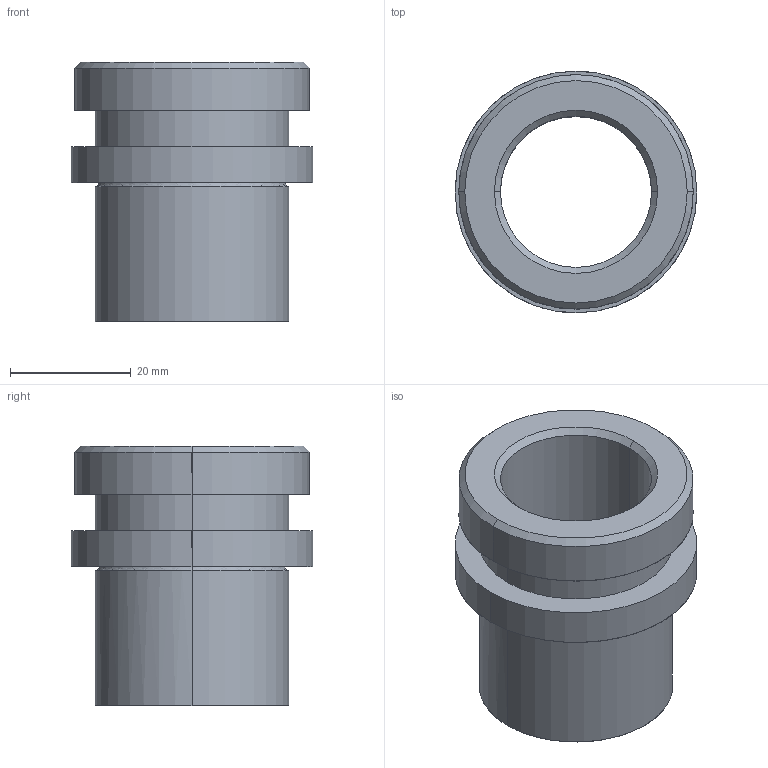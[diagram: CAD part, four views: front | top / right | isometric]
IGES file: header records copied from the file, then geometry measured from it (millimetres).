
Start section: START RECORD GO HERE.
Global section: file name: 735-19.igs; native system: DASSAULT SYSTEMES CATIA V5 R20 - www.3ds.com; preprocessor: CATIA Version 5 Release 20 ; author: Utente; organization: NB04-ASUS; date: 20210116.202959; units: millimetre
Bounding box: 40 x 40 x 43 mm (x, y, z)
Surface area: 10307.6 mm2 (no closed solid volume)
Topology: 0 solids, 0 shells, 25 faces, 100 edges, 100 vertices
Faces by surface type: revolution 20, plane 5
